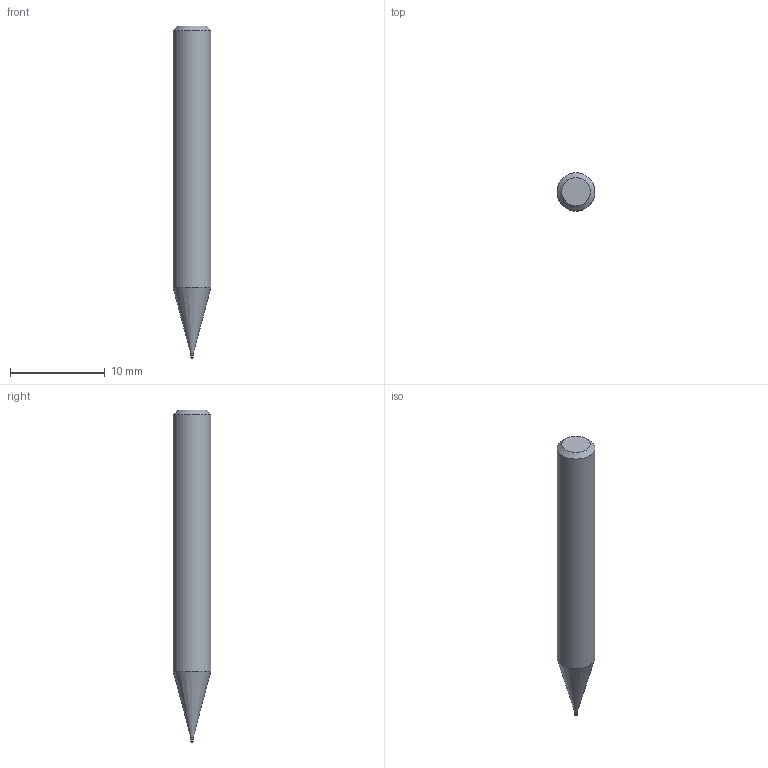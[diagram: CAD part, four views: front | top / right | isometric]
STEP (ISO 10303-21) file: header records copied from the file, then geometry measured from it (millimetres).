
FILE_DESCRIPTION((''),'2;1');
FILE_NAME('C:\Users\nsx150\AppData\Local\Temp\Mastercam 2021\80JYEHYUML\TEMP.step','2022-03-29T14:34:52',(''),(''),'STEP Write','Mastercam 2021 ... CNC Software, Inc.','');
FILE_SCHEMA(('AUTOMOTIVE_DESIGN'));
Length unit declared in the file: millimetre
Products named in the file (1): None
Bounding box: 4 x 4 x 35 mm (x, y, z)
Volume: 376.2 mm3; surface area: 403.8 mm2
Topology: 2 solids, 2 shells, 10 faces, 14 edges, 8 vertices
Faces by surface type: plane 4, cylinder 3, cone 2, torus 1
Full cylindrical faces by diameter (mm): 0.28 x1, 0.3 x1, 4 x1
Entity records: 232 total; most frequent: DIRECTION 40, CARTESIAN_POINT 28, AXIS2_PLACEMENT_3D 20, ORIENTED_EDGE 16, EDGE_LOOP 16, STYLED_ITEM 13, ADVANCED_FACE 10, FACE_BOUND 10
